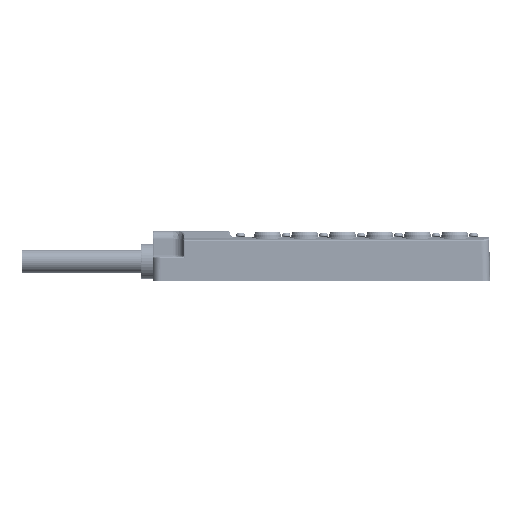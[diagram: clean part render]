
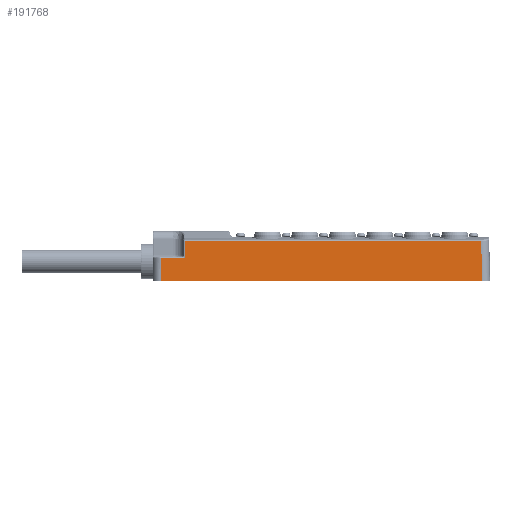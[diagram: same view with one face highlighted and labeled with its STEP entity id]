
A CAD part, front view. The second image highlights one B-rep face of the part: STEP entity #191768.
In plain terms, the highlighted planar face has unit normal (0, -1, 0.018).
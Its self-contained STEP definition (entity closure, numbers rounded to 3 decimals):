
#2053 = DIRECTION ( 'NONE',  ( 0., -1., 0.017 ) ) ;
#6148 = CARTESIAN_POINT ( 'NONE',  ( 59.671, -22.75, 0. ) ) ;
#8008 = ORIENTED_EDGE ( 'NONE', *, *, #200347, .T. ) ;
#16790 = DIRECTION ( 'NONE',  ( 0., -0.017, -1. ) ) ;
#23798 = CARTESIAN_POINT ( 'NONE',  ( -51.33, -22.62, 7.434 ) ) ;
#27295 = VECTOR ( 'NONE', #35537, 1000. ) ;
#27725 = VERTEX_POINT ( 'NONE', #61034 ) ;
#30860 = AXIS2_PLACEMENT_3D ( 'NONE', #75316, #2053, #82164 ) ;
#33949 = CARTESIAN_POINT ( 'NONE',  ( -0.33, -22.75, 0. ) ) ;
#35002 = CARTESIAN_POINT ( 'NONE',  ( -51.33, -22.49, 14.867 ) ) ;
#35537 = DIRECTION ( 'NONE',  ( -1., 0., 0. ) ) ;
#44050 = VERTEX_POINT ( 'NONE', #138827 ) ;
#44624 = VECTOR ( 'NONE', #186082, 1000. ) ;
#45365 = VERTEX_POINT ( 'NONE', #82422 ) ;
#49463 = CARTESIAN_POINT ( 'NONE',  ( -51.33, -22.601, 8.509 ) ) ;
#51908 = CARTESIAN_POINT ( 'NONE',  ( 4.041, -22.49, 14.867 ) ) ;
#60173 = ORIENTED_EDGE ( 'NONE', *, *, #89165, .T. ) ;
#61034 = CARTESIAN_POINT ( 'NONE',  ( -60.33, -22.75, 0. ) ) ;
#62837 = DIRECTION ( 'NONE',  ( -1., 0., 0. ) ) ;
#66744 = LINE ( 'NONE', #114598, #130311 ) ;
#66812 = VECTOR ( 'NONE', #147460, 1000. ) ;
#68119 = VECTOR ( 'NONE', #69777, 1000. ) ;
#69777 = DIRECTION ( 'NONE',  ( -0.017, 0.017, 1. ) ) ;
#75316 = CARTESIAN_POINT ( 'NONE',  ( 59.671, -22.49, 14.867 ) ) ;
#82164 = DIRECTION ( 'NONE',  ( -1., 0., 0. ) ) ;
#82422 = CARTESIAN_POINT ( 'NONE',  ( 59.411, -22.49, 14.867 ) ) ;
#89165 = EDGE_CURVE ( 'NONE', #44050, #27725, #172497, .T. ) ;
#91493 = VERTEX_POINT ( 'NONE', #49463 ) ;
#93639 = VERTEX_POINT ( 'NONE', #35002 ) ;
#96106 = LINE ( 'NONE', #120178, #68119 ) ;
#105300 = EDGE_CURVE ( 'NONE', #139861, #27725, #112458, .T. ) ;
#107613 = ORIENTED_EDGE ( 'NONE', *, *, #105300, .F. ) ;
#109846 = PLANE ( 'NONE',  #30860 ) ;
#112458 = LINE ( 'NONE', #33949, #66812 ) ;
#112950 = EDGE_CURVE ( 'NONE', #139861, #45365, #96106, .T. ) ;
#114598 = CARTESIAN_POINT ( 'NONE',  ( -0.329, -22.601, 8.509 ) ) ;
#120178 = CARTESIAN_POINT ( 'NONE',  ( 59.537, -22.616, 7.663 ) ) ;
#120791 = LINE ( 'NONE', #23798, #44624 ) ;
#129488 = VECTOR ( 'NONE', #16790, 1000. ) ;
#130311 = VECTOR ( 'NONE', #62837, 1000. ) ;
#131803 = CARTESIAN_POINT ( 'NONE',  ( -60.33, -22.62, 7.434 ) ) ;
#138827 = CARTESIAN_POINT ( 'NONE',  ( -60.33, -22.601, 8.509 ) ) ;
#139861 = VERTEX_POINT ( 'NONE', #6148 ) ;
#147460 = DIRECTION ( 'NONE',  ( -1., 0., 0. ) ) ;
#149044 = LINE ( 'NONE', #51908, #27295 ) ;
#153961 = ORIENTED_EDGE ( 'NONE', *, *, #157248, .T. ) ;
#154380 = ORIENTED_EDGE ( 'NONE', *, *, #209116, .T. ) ;
#157248 = EDGE_CURVE ( 'NONE', #93639, #91493, #120791, .T. ) ;
#160450 = EDGE_LOOP ( 'NONE', ( #8008, #60173, #107613, #185237, #154380, #153961 ) ) ;
#172497 = LINE ( 'NONE', #131803, #129488 ) ;
#181291 = FACE_OUTER_BOUND ( 'NONE', #160450, .T. ) ;
#185237 = ORIENTED_EDGE ( 'NONE', *, *, #112950, .T. ) ;
#186082 = DIRECTION ( 'NONE',  ( 0., -0.017, -1. ) ) ;
#191768 = ADVANCED_FACE ( 'NONE', ( #181291 ), #109846, .T. ) ;
#200347 = EDGE_CURVE ( 'NONE', #91493, #44050, #66744, .T. ) ;
#209116 = EDGE_CURVE ( 'NONE', #45365, #93639, #149044, .T. ) ;
